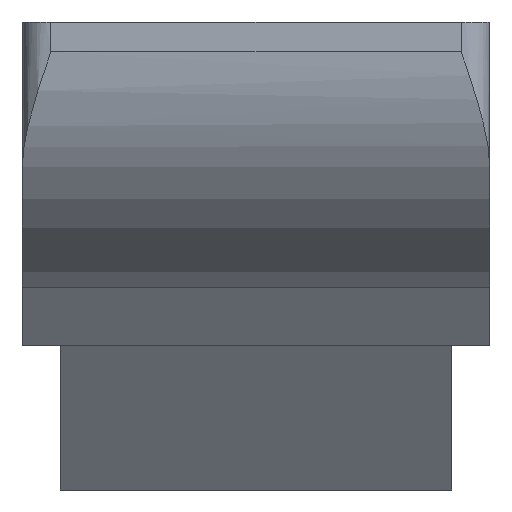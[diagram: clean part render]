
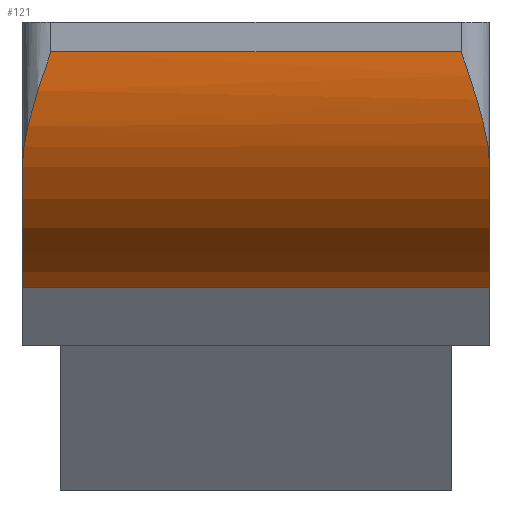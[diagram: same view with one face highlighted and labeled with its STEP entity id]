
A CAD part, top view. The second image highlights one B-rep face of the part: STEP entity #121.
In plain terms, the highlighted cylindrical face has radius 13 mm (diameter 26 mm), a partial arc.
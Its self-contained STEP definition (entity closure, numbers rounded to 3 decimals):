
#121 = ADVANCED_FACE( '', ( #304 ), #305, .T. );
#123 = EDGE_CURVE( '', #223, #145, #307, .T. );
#143 = EDGE_CURVE( '', #145, #173, #328, .T. );
#145 = VERTEX_POINT( '', #330 );
#173 = VERTEX_POINT( '', #362 );
#177 = VERTEX_POINT( '', #366 );
#181 = EDGE_CURVE( '', #251, #173, #370, .T. );
#189 = EDGE_CURVE( '', #227, #177, #378, .T. );
#203 = EDGE_CURVE( '', #177, #223, #395, .T. );
#213 = EDGE_CURVE( '', #227, #251, #405, .T. );
#223 = VERTEX_POINT( '', #418 );
#227 = VERTEX_POINT( '', #422 );
#251 = VERTEX_POINT( '', #450 );
#304 = FACE_OUTER_BOUND( '', #505, .T. );
#305 = CYLINDRICAL_SURFACE( '', #506, 13. );
#307 = B_SPLINE_CURVE_WITH_KNOTS( '', 3, ( #509, #510, #511, #512, #513, #514, #515, #516, #517, #518 ), .UNSPECIFIED., .F., .F., ( 4, 2, 2, 2, 4 ), ( 0., 1.551, 3.102, 4.653, 6.204 ), .UNSPECIFIED. );
#328 = CIRCLE( '', #548, 13. );
#330 = CARTESIAN_POINT( '', ( -12.3, -7.63, 15.3 ) );
#362 = CARTESIAN_POINT( '', ( -12.3, -13.932, 7.817 ) );
#366 = CARTESIAN_POINT( '', ( 10.8, -1.568, 16.8 ) );
#370 = LINE( '', #601, #602 );
#378 = B_SPLINE_CURVE_WITH_KNOTS( '', 3, ( #617, #618, #619, #620, #621, #622, #623, #624, #625, #626 ), .UNSPECIFIED., .F., .F., ( 4, 2, 2, 2, 4 ), ( 12.745, 14.296, 15.847, 17.398, 18.949 ), .UNSPECIFIED. );
#395 = LINE( '', #649, #650 );
#405 = CIRCLE( '', #667, 13. );
#418 = CARTESIAN_POINT( '', ( -10.8, -1.568, 16.8 ) );
#422 = CARTESIAN_POINT( '', ( 12.3, -7.63, 15.3 ) );
#450 = CARTESIAN_POINT( '', ( 12.3, -13.932, 7.817 ) );
#505 = EDGE_LOOP( '', ( #764, #765, #766, #767, #768, #769 ) );
#506 = AXIS2_PLACEMENT_3D( '', #770, #771, #772 );
#509 = CARTESIAN_POINT( '', ( -10.8, -1.568, 16.8 ) );
#510 = CARTESIAN_POINT( '', ( -10.966, -2.058, 16.8 ) );
#511 = CARTESIAN_POINT( '', ( -11.14, -2.569, 16.772 ) );
#512 = CARTESIAN_POINT( '', ( -11.479, -3.607, 16.65 ) );
#513 = CARTESIAN_POINT( '', ( -11.643, -4.133, 16.556 ) );
#514 = CARTESIAN_POINT( '', ( -11.934, -5.176, 16.301 ) );
#515 = CARTESIAN_POINT( '', ( -12.06, -5.692, 16.14 ) );
#516 = CARTESIAN_POINT( '', ( -12.243, -6.69, 15.76 ) );
#517 = CARTESIAN_POINT( '', ( -12.3, -7.173, 15.541 ) );
#518 = CARTESIAN_POINT( '', ( -12.3, -7.63, 15.3 ) );
#548 = AXIS2_PLACEMENT_3D( '', #785, #786, #787 );
#601 = CARTESIAN_POINT( '', ( 12.3, -13.932, 7.817 ) );
#602 = VECTOR( '', #832, 1. );
#617 = CARTESIAN_POINT( '', ( 12.3, -7.63, 15.3 ) );
#618 = CARTESIAN_POINT( '', ( 12.3, -7.173, 15.541 ) );
#619 = CARTESIAN_POINT( '', ( 12.243, -6.69, 15.76 ) );
#620 = CARTESIAN_POINT( '', ( 12.06, -5.692, 16.14 ) );
#621 = CARTESIAN_POINT( '', ( 11.934, -5.176, 16.301 ) );
#622 = CARTESIAN_POINT( '', ( 11.643, -4.133, 16.556 ) );
#623 = CARTESIAN_POINT( '', ( 11.479, -3.607, 16.65 ) );
#624 = CARTESIAN_POINT( '', ( 11.14, -2.569, 16.772 ) );
#625 = CARTESIAN_POINT( '', ( 10.966, -2.058, 16.8 ) );
#626 = CARTESIAN_POINT( '', ( 10.8, -1.568, 16.8 ) );
#649 = CARTESIAN_POINT( '', ( 12.3, -1.568, 16.8 ) );
#650 = VECTOR( '', #867, 1. );
#667 = AXIS2_PLACEMENT_3D( '', #871, #872, #873 );
#764 = ORIENTED_EDGE( '', *, *, #123, .T. );
#765 = ORIENTED_EDGE( '', *, *, #143, .T. );
#766 = ORIENTED_EDGE( '', *, *, #181, .F. );
#767 = ORIENTED_EDGE( '', *, *, #213, .F. );
#768 = ORIENTED_EDGE( '', *, *, #189, .T. );
#769 = ORIENTED_EDGE( '', *, *, #203, .T. );
#770 = CARTESIAN_POINT( '', ( 12.3, -1.568, 3.8 ) );
#771 = DIRECTION( '', ( 1., 0., 0. ) );
#772 = DIRECTION( '', ( 0., 0., 1. ) );
#785 = CARTESIAN_POINT( '', ( -12.3, -1.568, 3.8 ) );
#786 = DIRECTION( '', ( 1., 0., 0. ) );
#787 = DIRECTION( '', ( 0., 0., 1. ) );
#832 = DIRECTION( '', ( -1., 0., 0. ) );
#867 = DIRECTION( '', ( -1., 0., 0. ) );
#871 = CARTESIAN_POINT( '', ( 12.3, -1.568, 3.8 ) );
#872 = DIRECTION( '', ( 1., 0., 0. ) );
#873 = DIRECTION( '', ( 0., 0., 1. ) );
